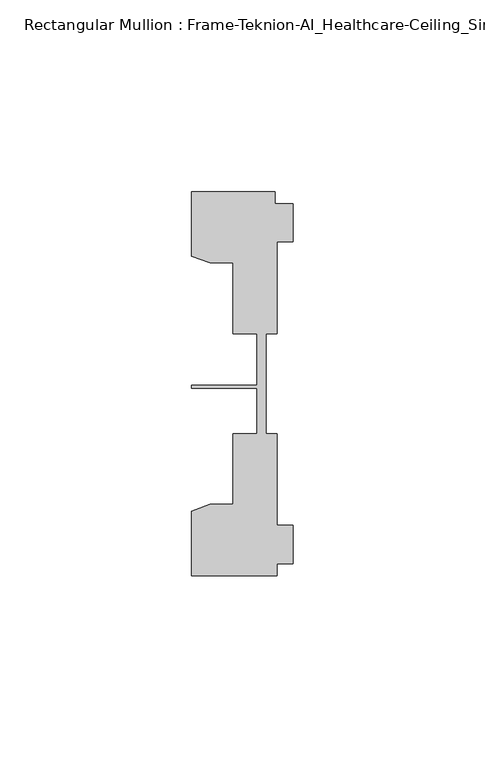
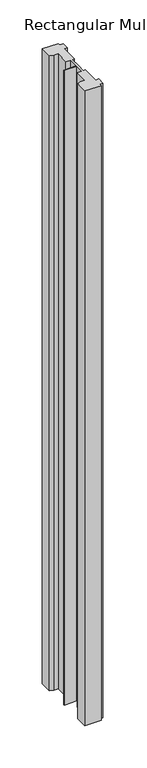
"""IFC4 building model written with IfcOpenShell, lengths in millimetres: member geometry, Rectangular Mullion : Frame-Teknion-AI_Healthcare-Ceiling_Single_Channel."""

import ifcopenshell
import ifcopenshell.guid

model = None  # the IFC model being written
_history = None  # IfcOwnerHistory: only IFC2X3 demands one
_inside = {}  # id of a spatial element -> (the spatial element, [elements in it])
_under = {}  # id of a project, library or spatial element -> (it, [spatial elements below it])
_declared = {}  # id of a project -> (the project, [libraries it declares])
_typed = {}  # id of a type object -> (the type object, [elements of that type])
_made_of = {}  # id of a material, layer set ... -> (it, [elements and type objects made of it])


def new_model(schema):
    """Start an empty IFC model of exactly this schema.

    Asked for "IFC4X3", IfcOpenShell would pick the latest addendum, in which some entities
    have other attributes; the version numbers below select the first issue.
    IFC2X3 requires an IfcOwnerHistory on every rooted entity: one is made here for all.
    """
    global model, _history
    if schema == "IFC4X3":
        model = ifcopenshell.file(schema_version=(4, 3, 0, 0))
    else:
        model = ifcopenshell.file(schema=schema)
    _inside.clear()
    _under.clear()
    _declared.clear()
    _typed.clear()
    _made_of.clear()
    _history = None
    if model.schema == "IFC2X3":
        org = make("IfcOrganization", Name="unknown")
        user = make(
            "IfcPersonAndOrganization",
            ThePerson=make("IfcPerson", FamilyName="unknown"),
            TheOrganization=org,
        )
        app = make(
            "IfcApplication",
            ApplicationDeveloper=org,
            Version="unknown",
            ApplicationFullName="unknown",
            ApplicationIdentifier="unknown",
        )
        _history = make(
            "IfcOwnerHistory",
            OwningUser=user,
            OwningApplication=app,
            ChangeAction="ADDED",
            CreationDate=0,
        )
    return model


def make(cls, **values):
    """One entity of the class cls with the attributes given. An attribute that is None is left unset."""
    return model.create_entity(
        cls, **{name: value for name, value in values.items() if value is not None}
    )


def rooted(cls, **values):
    """An entity with a GlobalId (a new one), such as an element, a storey or a relation."""
    return make(cls, GlobalId=ifcopenshell.guid.new(), OwnerHistory=_history, **values)


def si_unit(unit_type, name, prefix=None):
    """IfcSIUnit, for example si_unit("LENGTHUNIT", "METRE", prefix="MILLI")."""
    return make("IfcSIUnit", UnitType=unit_type, Prefix=prefix, Name=name)


def assignment(units):
    """IfcUnitAssignment: the units of a project."""
    return None if units is None else make("IfcUnitAssignment", Units=units)


def point(xyz):
    """IfcCartesianPoint."""
    return None if xyz is None else make("IfcCartesianPoint", Coordinates=xyz)


def direction(xyz):
    """IfcDirection."""
    return None if xyz is None else make("IfcDirection", DirectionRatios=xyz)


def frame(location, z_axis=None, x_axis=None):
    """IfcAxis2Placement3D, a coordinate frame: its origin and axes. An axis left out is left unset."""
    return make(
        "IfcAxis2Placement3D",
        Location=point(location),
        Axis=direction(z_axis),
        RefDirection=direction(x_axis),
    )


def origin():
    """The frame at (0, 0, 0) with its axes left unset."""
    return frame((0.0, 0.0, 0.0))


def place(relative_to, where):
    """IfcLocalPlacement: puts the frame where relative to a parent placement (None: the world)."""
    return make(
        "IfcLocalPlacement", PlacementRelTo=relative_to, RelativePlacement=where
    )


def context(
    kind, dimensions, precision=None, world=None, true_north=None, identifier=None
):
    """IfcGeometricRepresentationContext, for example the 3D "Model" context."""
    return make(
        "IfcGeometricRepresentationContext",
        ContextIdentifier=identifier,
        ContextType=kind,
        CoordinateSpaceDimension=dimensions,
        Precision=precision,
        WorldCoordinateSystem=world,
        TrueNorth=true_north,
    )


def project(units=None, contexts=None):
    """IfcProject with its units and contexts."""
    return rooted(
        "IfcProject",
        Name="project",
        RepresentationContexts=contexts,
        UnitsInContext=assignment(units),
    )


def spatial(cls, under=None, at=None, **own):
    """A site, building, storey or space (cls), placed at a placement, below another one or the project."""
    s = rooted(cls, ObjectPlacement=at, **own)
    if under is not None:
        _under.setdefault(under.id(), (under, []))[1].append(s)
    return s


def polyline(points):
    """IfcPolyline through the points."""
    return make("IfcPolyline", Points=[point(p) for p in points])


def outline(outer, holes=None, kind="AREA"):
    """IfcArbitraryClosedProfileDef: a profile drawn as a closed curve; with holes, ...WithVoids."""
    if holes is None:
        return make("IfcArbitraryClosedProfileDef", ProfileType=kind, OuterCurve=outer)
    return make(
        "IfcArbitraryProfileDefWithVoids",
        ProfileType=kind,
        OuterCurve=outer,
        InnerCurves=holes,
    )


def extrude(swept, where, along, depth):
    """IfcExtrudedAreaSolid: the profile swept, set in the frame where, extruded along a direction by depth."""
    return make(
        "IfcExtrudedAreaSolid",
        SweptArea=swept,
        Position=where,
        ExtrudedDirection=direction(along),
        Depth=depth,
    )


def shape(context_of_items, identifier, shape_type, items):
    """IfcShapeRepresentation: the items that make up one representation, for example the "Body"."""
    return make(
        "IfcShapeRepresentation",
        ContextOfItems=context_of_items,
        RepresentationIdentifier=identifier,
        RepresentationType=shape_type,
        Items=items,
    )


def source(mapping_origin, context_of_items, identifier, shape_type, items):
    """IfcRepresentationMap: a shape defined once, which mapped items show again and again."""
    return make(
        "IfcRepresentationMap",
        MappingOrigin=mapping_origin,
        MappedRepresentation=shape(context_of_items, identifier, shape_type, items),
    )


def transform(
    local_origin,
    x_axis=None,
    y_axis=None,
    z_axis=None,
    scale=None,
    scale2=None,
    scale3=None,
    uniform=True,
):
    """IfcCartesianTransformationOperator3D, or its non-uniform kind. x_axis, y_axis, z_axis: its Axis1, 2, 3."""
    if uniform:
        return make(
            "IfcCartesianTransformationOperator3D",
            Axis1=direction(x_axis),
            Axis2=direction(y_axis),
            LocalOrigin=point(local_origin),
            Scale=scale,
            Axis3=direction(z_axis),
        )
    return make(
        "IfcCartesianTransformationOperator3DnonUniform",
        Axis1=direction(x_axis),
        Axis2=direction(y_axis),
        LocalOrigin=point(local_origin),
        Scale=scale,
        Axis3=direction(z_axis),
        Scale2=scale2,
        Scale3=scale3,
    )


def mapped(mapping_source, mapping_target):
    """IfcMappedItem: shows the shape of a source again, moved by a transform."""
    return make(
        "IfcMappedItem", MappingSource=mapping_source, MappingTarget=mapping_target
    )


def made_of(thing, what):
    """Note that an element or type object is made of a material, layer set ...; save() writes the relation."""
    if what is not None:
        _made_of.setdefault(what.id(), (what, []))[1].append(thing)
    return thing


def element(
    cls,
    number,
    at=None,
    inside=None,
    cuts=None,
    type_object=None,
    material=None,
    context=None,
    identifier="Body",
    shape_type=None,
    held_by="IfcProductDefinitionShape",
    body=None,
    shapes=None,
    **own,
):
    """One element of the class cls, such as IfcWall. Its Tag is "e" and its number.

    at: its placement. inside: the storey or other place that contains it. cuts: it is an
    opening in that element (IfcRelVoidsElement). A single representation is given by context,
    identifier, shape_type and body (its items); several are given by shapes. held_by: the class
    of the entity that holds the representations. save() writes the other relations.
    """
    e = rooted(cls, Tag="e%d" % number, ObjectPlacement=at, **own)
    if body is not None:
        shapes = [shape(context, identifier, shape_type, body)]
    if shapes is not None:
        e.Representation = make(held_by, Representations=shapes)
    if inside is not None:
        _inside.setdefault(inside.id(), (inside, []))[1].append(e)
    if cuts is not None:
        rooted(
            "IfcRelVoidsElement", RelatingBuildingElement=cuts, RelatedOpeningElement=e
        )
    if type_object is not None:
        _typed.setdefault(type_object.id(), (type_object, []))[1].append(e)
    return made_of(e, material)


def aggregate(whole, parts):
    """IfcRelAggregates: a whole, such as a stair, and the parts it consists of."""
    return rooted("IfcRelAggregates", RelatingObject=whole, RelatedObjects=parts)


def save(model, path):
    """Write the relations noted so far, then the file.

    IfcRelAggregates (storeys below a building ...), IfcRelContainedInSpatialStructure (elements
    in a storey), IfcRelDefinesByType, IfcRelAssociatesMaterial and IfcRelDeclares: one each for
    every whole, place, type object, material and project.
    """
    for whole, parts in _under.values():
        aggregate(whole, parts)
    for where, things in _inside.values():
        rooted(
            "IfcRelContainedInSpatialStructure",
            RelatedElements=things,
            RelatingStructure=where,
        )
    for kind, things in _typed.values():
        rooted("IfcRelDefinesByType", RelatedObjects=things, RelatingType=kind)
    for what, things in _made_of.values():
        rooted("IfcRelAssociatesMaterial", RelatedObjects=things, RelatingMaterial=what)
    for by, libraries in _declared.values():
        rooted("IfcRelDeclares", RelatingContext=by, RelatedDefinitions=libraries)
    model.write(path)


def rectangular_mullion_frame_teknion_ai_healthcare_ceiling_18b0331c(model_context):
    return source(origin(), model_context, "Body", "SweptSolid", [
        extrude(outline(polyline([(-26.4921999, 34.0201677), (-26.4921999, 50.8315128), (-4.7752002, 50.8315128), (-4.7752002, 47.782071), (0.0, 47.782071), (0.0, 37.7820716), (-4.2672007, 37.7820716), (-4.2672007, 13.9110722), (-7.1647766, 13.9110722), (-7.1647766, 0.0814804), (-7.1647766, -12.2509301), (-4.2672007, -12.2509301), (-4.2672007, -36.1219249), (0.0, -36.1219249), (0.0, -46.1219322), (-4.2672007, -46.1219322), (-4.2672007, -49.1699293), (-26.4921999, -49.1699293), (-26.4921999, -32.3600207), (-21.6625199, -30.6279561), (-15.6737764, -30.6279561), (-15.6737764, -12.2509301), (-9.4507761, -12.2509301), (-9.4507761, -0.4036528), (-26.4921999, -0.4036528), (-26.4921999, 0.4036528), (-9.4507761, 0.4036528), (-9.4507761, 13.9110722), (-15.6737764, 13.9110722), (-15.6737764, 32.2880982), (-21.6625199, 32.2880982), (-26.4921999, 34.0201677)])), frame((0.0, 0.0, -914.4), z_axis=(0.0, 0.0, 1.0), x_axis=(1.0, 0.0, 0.0)), (0.0, 0.0, 1.0), 914.4),
    ])


if __name__ == "__main__":
    model = new_model("IFC4")
    model_context = context("Model", 3, world=origin())
    ifc_project = project(units=[si_unit("LENGTHUNIT", "METRE", prefix="MILLI")], contexts=[model_context])
    site = spatial("IfcSite", under=ifc_project)
    building = spatial("IfcBuilding", under=site)
    placement = place(None, origin())
    rectangular_mullion_frame_teknion_ai_healthcare_ceiling_shape = rectangular_mullion_frame_teknion_ai_healthcare_ceiling_18b0331c(model_context)
    element("IfcMember", 1, ObjectType="Rectangular Mullion : Frame-Teknion-AI_Healthcare-Ceiling_Single_Channel", at=placement, inside=building, context=model_context, shape_type="MappedRepresentation", body=[
        mapped(rectangular_mullion_frame_teknion_ai_healthcare_ceiling_shape, transform((0.0, 0.0, 0.0), x_axis=(1.0, 0.0, 0.0), y_axis=(0.0, 1.0, 0.0), z_axis=(0.0, 0.0, 1.0))),
    ])
    save(model, "model.ifc")
